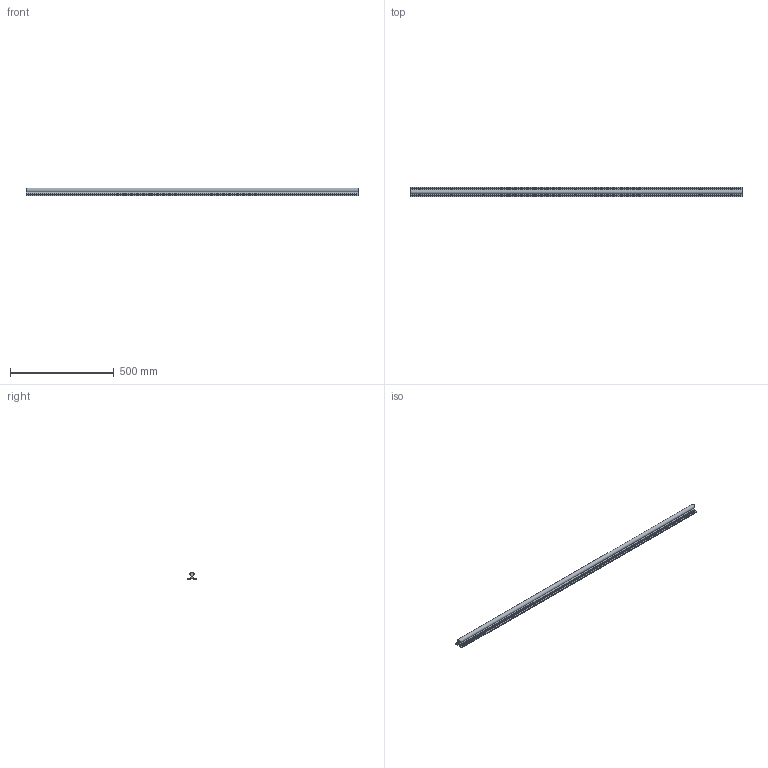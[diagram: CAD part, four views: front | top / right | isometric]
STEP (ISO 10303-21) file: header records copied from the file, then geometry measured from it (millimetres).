
FILE_DESCRIPTION(/* description */ (''),/* implementation_level */ '2;1');
FILE_NAME(/* name */ 'C:\Users\David\Desktop\stepFiles\Profilfuehrung\LFS20x1600.stp',/* time_stamp */ '2018-06-24T15:22:02+02:00',/* author */ ('Buskamp'),/* organization */ (''),/* preprocessor_version */ 'ST-DEVELOPER v17',/* originating_system */ 'Autodesk Inventor 2019',/* authorisation */ '');
FILE_SCHEMA (('AUTOMOTIVE_DESIGN { 1 0 10303 214 3 1 1 }'));
Length unit declared in the file: millimetre
Products named in the file (1): Linearführung D20xvariabel
Bounding box: 1600 x 45 x 37 mm (x, y, z)
Volume: 1033701.4 mm3; surface area: 283825.3 mm2
Topology: 1 solids, 1 shells, 130 faces, 440 edges, 290 vertices
Faces by surface type: plane 91, cylinder 23, cone 16
Full cylindrical faces by diameter (mm): 5.5 x22
Entity records: 4931 total; most frequent: CARTESIAN_POINT 925, ORIENTED_EDGE 880, DIRECTION 842, EDGE_CURVE 440, AXIS2_PLACEMENT_3D 303, VERTEX_POINT 290, LINE 236, VECTOR 236
